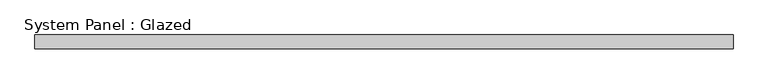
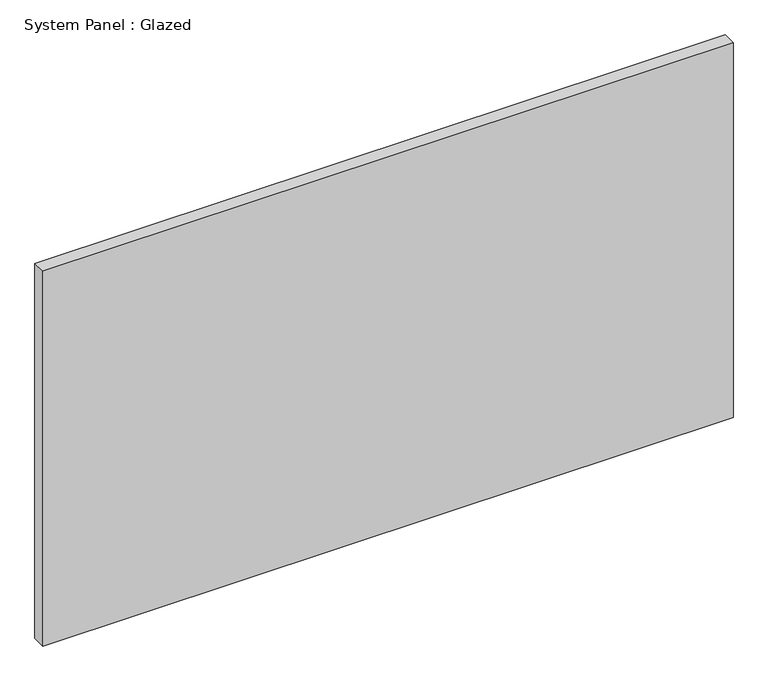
"""IFC4 building model written with IfcOpenShell, lengths in millimetres: plate geometry, System Panel : Glazed."""

from ifc_helpers import new_model, si_unit, origin, origin_with_axes, place, context, project, spatial, polyline, outline, extrude, source, transform, mapped, element, save


def system_panel_glazed_4871c888(model_context):
    return source(origin(), model_context, "Body", "SweptSolid", [
        extrude(outline(polyline([(630.8333334, 24.5), (-630.8333334, 24.5), (-630.8333334, 49.5), (630.8333334, 49.5), (630.8333334, 24.5)])), origin_with_axes(), (0.0, 0.0, 1.0), 725.0),
    ])


if __name__ == "__main__":
    model = new_model("IFC4")
    model_context = context("Model", 3, world=origin())
    ifc_project = project(units=[si_unit("LENGTHUNIT", "METRE", prefix="MILLI")], contexts=[model_context])
    site = spatial("IfcSite", under=ifc_project)
    building = spatial("IfcBuilding", under=site)
    placement = place(None, origin())
    system_panel_glazed_shape = system_panel_glazed_4871c888(model_context)
    element("IfcPlate", 1, ObjectType="System Panel : Glazed", at=placement, inside=building, context=model_context, shape_type="MappedRepresentation", body=[
        mapped(system_panel_glazed_shape, transform((0.0, 0.0, 0.0), x_axis=(1.0, 0.0, 0.0), y_axis=(0.0, 1.0, 0.0), z_axis=(0.0, 0.0, 1.0))),
    ])
    save(model, "model.ifc")
